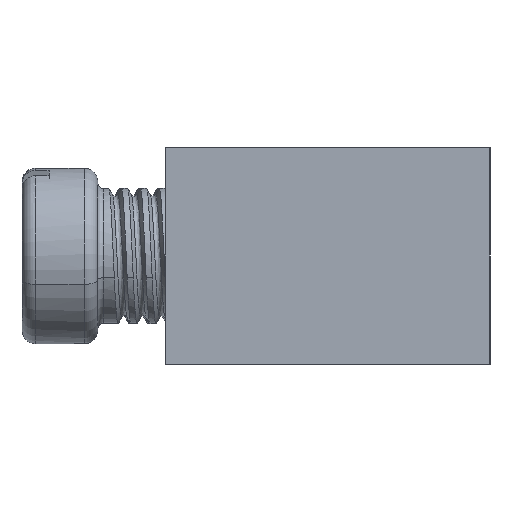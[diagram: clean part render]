
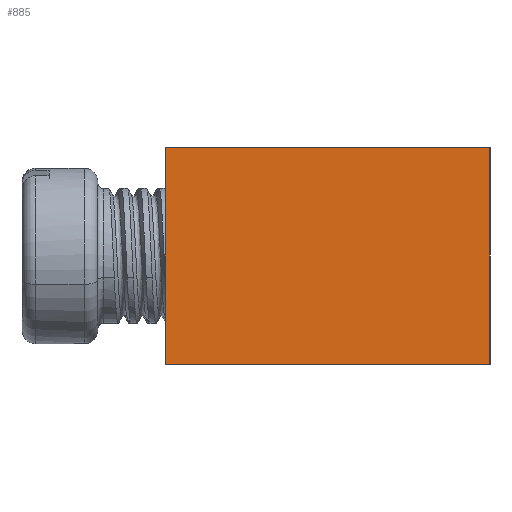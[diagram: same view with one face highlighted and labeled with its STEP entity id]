
A CAD part, left-side view. The second image highlights one B-rep face of the part: STEP entity #885.
In plain terms, the highlighted planar face has unit normal (-1, 0, 0).
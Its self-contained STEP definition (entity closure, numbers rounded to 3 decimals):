
#414 = LINE ( 'NONE', #845, #4203 ) ;
#845 = CARTESIAN_POINT ( 'NONE',  ( 0., 0., -8. ) ) ;
#885 = ADVANCED_FACE ( 'NONE', ( #2547 ), #2622, .T. ) ;
#1003 = DIRECTION ( 'NONE',  ( 0., 0., 1. ) ) ;
#1022 = ORIENTED_EDGE ( 'NONE', *, *, #2688, .T. ) ;
#1097 = VERTEX_POINT ( 'NONE', #2804 ) ;
#1271 = ORIENTED_EDGE ( 'NONE', *, *, #1894, .F. ) ;
#1635 = VECTOR ( 'NONE', #2557, 1000. ) ;
#1716 = VECTOR ( 'NONE', #4828, 1000. ) ;
#1894 = EDGE_CURVE ( 'NONE', #1097, #5861, #3018, .T. ) ;
#2045 = CARTESIAN_POINT ( 'NONE',  ( 0., 0., -8. ) ) ;
#2210 = EDGE_CURVE ( 'NONE', #2479, #5861, #4446, .T. ) ;
#2282 = LINE ( 'NONE', #4508, #6234 ) ;
#2468 = EDGE_CURVE ( 'NONE', #4142, #1097, #2282, .T. ) ;
#2479 = VERTEX_POINT ( 'NONE', #6334 ) ;
#2547 = FACE_OUTER_BOUND ( 'NONE', #4248, .T. ) ;
#2557 = DIRECTION ( 'NONE',  ( 0., -1., 0. ) ) ;
#2622 = PLANE ( 'NONE',  #3809 ) ;
#2688 = EDGE_CURVE ( 'NONE', #4142, #2479, #414, .T. ) ;
#2804 = CARTESIAN_POINT ( 'NONE',  ( 0., 12., 0. ) ) ;
#2942 = ORIENTED_EDGE ( 'NONE', *, *, #2468, .F. ) ;
#3018 = LINE ( 'NONE', #5638, #1635 ) ;
#3304 = CARTESIAN_POINT ( 'NONE',  ( 0., 0., -8. ) ) ;
#3631 = ORIENTED_EDGE ( 'NONE', *, *, #2210, .T. ) ;
#3809 = AXIS2_PLACEMENT_3D ( 'NONE', #2045, #4597, #1003 ) ;
#3998 = CARTESIAN_POINT ( 'NONE',  ( 0., 0., 0. ) ) ;
#4142 = VERTEX_POINT ( 'NONE', #4146 ) ;
#4146 = CARTESIAN_POINT ( 'NONE',  ( 0., 12., -8. ) ) ;
#4203 = VECTOR ( 'NONE', #4447, 1000. ) ;
#4248 = EDGE_LOOP ( 'NONE', ( #1271, #2942, #1022, #3631 ) ) ;
#4446 = LINE ( 'NONE', #3304, #1716 ) ;
#4447 = DIRECTION ( 'NONE',  ( 0., -1., 0. ) ) ;
#4508 = CARTESIAN_POINT ( 'NONE',  ( 0., 12., -8. ) ) ;
#4597 = DIRECTION ( 'NONE',  ( -1., 0., 0. ) ) ;
#4828 = DIRECTION ( 'NONE',  ( 0., 0., 1. ) ) ;
#5638 = CARTESIAN_POINT ( 'NONE',  ( 0., 0., 0. ) ) ;
#5812 = DIRECTION ( 'NONE',  ( 0., 0., 1. ) ) ;
#5861 = VERTEX_POINT ( 'NONE', #3998 ) ;
#6234 = VECTOR ( 'NONE', #5812, 1000. ) ;
#6334 = CARTESIAN_POINT ( 'NONE',  ( 0., 0., -8. ) ) ;
